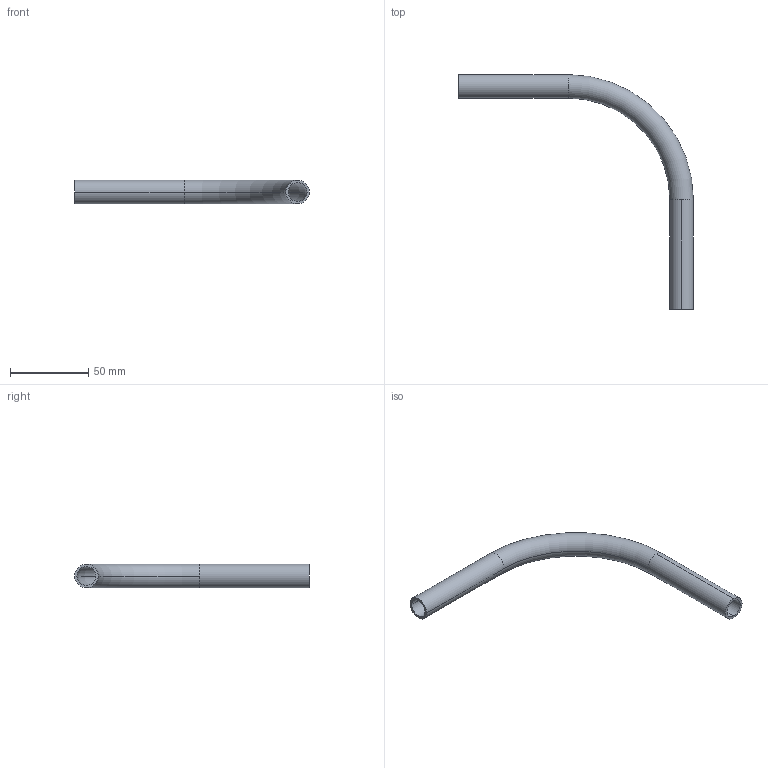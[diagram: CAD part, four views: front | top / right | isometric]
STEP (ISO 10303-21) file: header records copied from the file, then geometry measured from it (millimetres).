
FILE_DESCRIPTION (( 'STEP AP203' ), '1' );
FILE_NAME ('059.015.101.STEP', '2016-10-19T13:00:40', ( 'Utente' ), ( '' ), 'SwSTEP 2.0', 'SolidWorks 2016', '' );
FILE_SCHEMA (( 'CONFIG_CONTROL_DESIGN' ));
Length unit declared in the file: millimetre
Products named in the file (1): 059.015.101
Bounding box: 150 x 150 x 15 mm (x, y, z)
Volume: 16151.3 mm3; surface area: 21662.3 mm2
Topology: 1 solids, 1 shells, 14 faces, 32 edges, 20 vertices
Faces by surface type: cylinder 8, torus 4, plane 2
Entity records: 489 total; most frequent: DIRECTION 86, CARTESIAN_POINT 67, ORIENTED_EDGE 64, AXIS2_PLACEMENT_3D 39, EDGE_CURVE 32, CIRCLE 24, VERTEX_POINT 20, EDGE_LOOP 16
